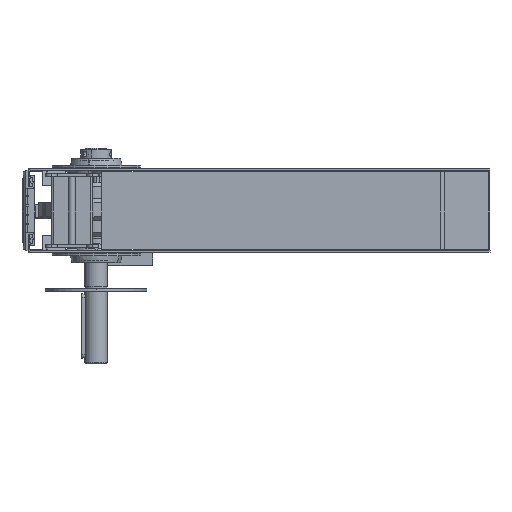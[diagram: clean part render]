
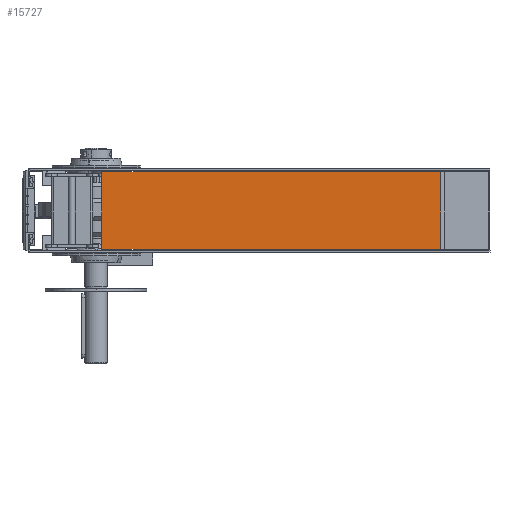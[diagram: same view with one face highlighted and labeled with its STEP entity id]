
A CAD part, left-side view. The second image highlights one B-rep face of the part: STEP entity #15727.
In plain terms, the highlighted planar face has unit normal (-1, 0, 0).
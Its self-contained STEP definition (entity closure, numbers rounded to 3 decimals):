
#371 = CARTESIAN_POINT ( 'NONE',  ( -264.95, -80., -3. ) ) ;
#2565 = FACE_OUTER_BOUND ( 'NONE', #4066, .T. ) ;
#2881 = DIRECTION ( 'NONE',  ( 0., 1., 0. ) ) ;
#3724 = ORIENTED_EDGE ( 'NONE', *, *, #6232, .T. ) ;
#4066 = EDGE_LOOP ( 'NONE', ( #11332, #6071, #8140, #3724 ) ) ;
#4851 = DIRECTION ( 'NONE',  ( 0., 0., -1. ) ) ;
#5308 = DIRECTION ( 'NONE',  ( -1., 0., 0. ) ) ;
#6071 = ORIENTED_EDGE ( 'NONE', *, *, #17035, .F. ) ;
#6232 = EDGE_CURVE ( 'NONE', #16856, #25813, #35924, .T. ) ;
#7911 = CARTESIAN_POINT ( 'NONE',  ( -264.95, -446.695, -3. ) ) ;
#8140 = ORIENTED_EDGE ( 'NONE', *, *, #39125, .T. ) ;
#9867 = VECTOR ( 'NONE', #2881, 1000. ) ;
#11332 = ORIENTED_EDGE ( 'NONE', *, *, #36135, .F. ) ;
#11669 = DIRECTION ( 'NONE',  ( 0., 0., -1. ) ) ;
#11957 = CARTESIAN_POINT ( 'NONE',  ( -264.95, -447., -3. ) ) ;
#13106 = CARTESIAN_POINT ( 'NONE',  ( -264.95, -447., -87. ) ) ;
#14236 = LINE ( 'NONE', #13106, #22292 ) ;
#15727 = ADVANCED_FACE ( 'NONE', ( #2565 ), #20189, .T. ) ;
#16856 = VERTEX_POINT ( 'NONE', #371 ) ;
#17035 = EDGE_CURVE ( 'NONE', #24037, #36202, #34547, .T. ) ;
#19864 = CARTESIAN_POINT ( 'NONE',  ( -264.95, -446.695, -3. ) ) ;
#19878 = VECTOR ( 'NONE', #11669, 1000. ) ;
#20189 = PLANE ( 'NONE',  #23121 ) ;
#22292 = VECTOR ( 'NONE', #28114, 1000. ) ;
#23121 = AXIS2_PLACEMENT_3D ( 'NONE', #23237, #5308, #26414 ) ;
#23237 = CARTESIAN_POINT ( 'NONE',  ( -264.95, -447., -3. ) ) ;
#23600 = CARTESIAN_POINT ( 'NONE',  ( -264.95, -80., -87. ) ) ;
#24037 = VERTEX_POINT ( 'NONE', #7911 ) ;
#25813 = VERTEX_POINT ( 'NONE', #23600 ) ;
#26414 = DIRECTION ( 'NONE',  ( 0., 0., 1. ) ) ;
#27975 = VECTOR ( 'NONE', #4851, 1000. ) ;
#28114 = DIRECTION ( 'NONE',  ( 0., 1., 0. ) ) ;
#29851 = CARTESIAN_POINT ( 'NONE',  ( -264.95, -80., -3. ) ) ;
#33905 = LINE ( 'NONE', #11957, #9867 ) ;
#34442 = CARTESIAN_POINT ( 'NONE',  ( -264.95, -446.695, -87. ) ) ;
#34547 = LINE ( 'NONE', #19864, #27975 ) ;
#35924 = LINE ( 'NONE', #29851, #19878 ) ;
#36135 = EDGE_CURVE ( 'NONE', #36202, #25813, #14236, .T. ) ;
#36202 = VERTEX_POINT ( 'NONE', #34442 ) ;
#39125 = EDGE_CURVE ( 'NONE', #24037, #16856, #33905, .T. ) ;
